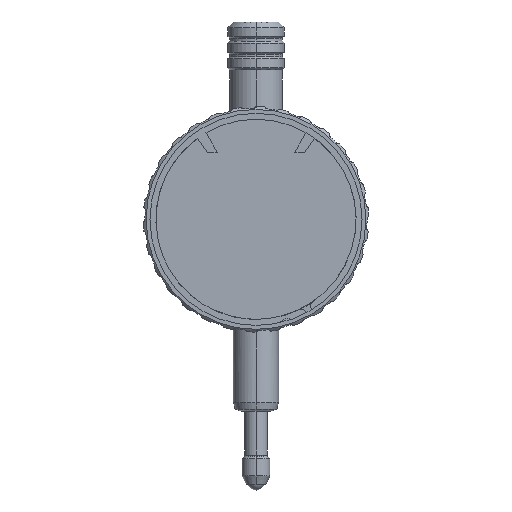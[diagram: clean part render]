
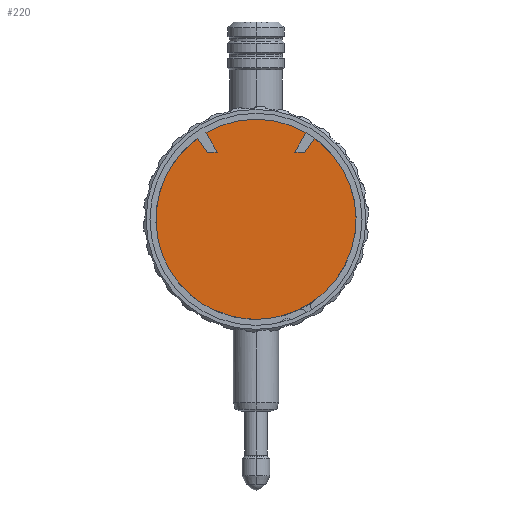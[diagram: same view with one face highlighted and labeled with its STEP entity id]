
A CAD part, front view. The second image highlights one B-rep face of the part: STEP entity #220.
In plain terms, the highlighted planar face has unit normal (0, -1, 0).
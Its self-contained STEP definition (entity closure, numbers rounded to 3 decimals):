
#220=ADVANCED_FACE('',(#678,#679),#680,.F.);
#678=FACE_BOUND('',#1257,.T.);
#679=FACE_OUTER_BOUND('',#1258,.T.);
#680=PLANE('',#1259);
#1257=EDGE_LOOP('',(#2946,#2947,#2948,#2949,#2950,#2951,#2952,#2953,#2954,#2955,#2956,#2957,#2958,#2959,#2960,#2961));
#1258=EDGE_LOOP('',(#2962,#2963));
#1259=AXIS2_PLACEMENT_3D('',#2964,#2965,#2966);
#2946=ORIENTED_EDGE('',*,*,#4417,.T.);
#2947=ORIENTED_EDGE('',*,*,#4418,.T.);
#2948=ORIENTED_EDGE('',*,*,#4419,.T.);
#2949=ORIENTED_EDGE('',*,*,#4420,.T.);
#2950=ORIENTED_EDGE('',*,*,#3872,.T.);
#2951=ORIENTED_EDGE('',*,*,#3854,.T.);
#2952=ORIENTED_EDGE('',*,*,#4421,.T.);
#2953=ORIENTED_EDGE('',*,*,#4422,.T.);
#2954=ORIENTED_EDGE('',*,*,#3862,.T.);
#2955=ORIENTED_EDGE('',*,*,#4423,.T.);
#2956=ORIENTED_EDGE('',*,*,#4424,.T.);
#2957=ORIENTED_EDGE('',*,*,#4425,.T.);
#2958=ORIENTED_EDGE('',*,*,#4426,.T.);
#2959=ORIENTED_EDGE('',*,*,#3860,.T.);
#2960=ORIENTED_EDGE('',*,*,#3870,.T.);
#2961=ORIENTED_EDGE('',*,*,#4427,.T.);
#2962=ORIENTED_EDGE('',*,*,#3987,.T.);
#2963=ORIENTED_EDGE('',*,*,#4416,.T.);
#2964=CARTESIAN_POINT('',(0.0,-12.0,-9.675));
#2965=DIRECTION('',(-0.0,1.0,0.));
#2966=DIRECTION('',(0.0,0.,1.0));
#3854=EDGE_CURVE('',#4738,#4735,#4739,.T.);
#3860=EDGE_CURVE('',#4744,#4748,#4750,.T.);
#3862=EDGE_CURVE('',#4754,#4751,#4755,.T.);
#3870=EDGE_CURVE('',#4748,#4767,#4770,.T.);
#3872=EDGE_CURVE('',#4772,#4738,#4773,.T.);
#3987=EDGE_CURVE('',#4984,#4988,#4990,.T.);
#4416=EDGE_CURVE('',#4988,#4984,#5693,.T.);
#4417=EDGE_CURVE('',#5694,#5695,#5696,.T.);
#4418=EDGE_CURVE('',#5695,#5697,#5698,.T.);
#4419=EDGE_CURVE('',#5697,#5699,#5700,.T.);
#4420=EDGE_CURVE('',#5699,#4772,#5701,.T.);
#4421=EDGE_CURVE('',#4735,#5702,#5703,.T.);
#4422=EDGE_CURVE('',#5702,#4754,#5704,.T.);
#4423=EDGE_CURVE('',#4751,#5705,#5706,.T.);
#4424=EDGE_CURVE('',#5705,#5707,#5708,.T.);
#4425=EDGE_CURVE('',#5707,#5709,#5710,.T.);
#4426=EDGE_CURVE('',#5709,#4744,#5711,.T.);
#4427=EDGE_CURVE('',#4767,#5694,#5712,.T.);
#4735=VERTEX_POINT('',#5983);
#4738=VERTEX_POINT('',#5987);
#4739=CIRCLE('',#5988,0.75);
#4744=VERTEX_POINT('',#5994);
#4748=VERTEX_POINT('',#5999);
#4750=CIRCLE('',#6002,0.75);
#4751=VERTEX_POINT('',#6003);
#4754=VERTEX_POINT('',#6007);
#4755=CIRCLE('',#6008,19.25);
#4767=VERTEX_POINT('',#6023);
#4770=CIRCLE('',#6027,17.75);
#4772=VERTEX_POINT('',#6029);
#4773=CIRCLE('',#6030,17.75);
#4984=VERTEX_POINT('',#7507);
#4988=VERTEX_POINT('',#7512);
#4990=CIRCLE('',#7515,19.35);
#5693=CIRCLE('',#11700,19.35);
#5694=VERTEX_POINT('',#11701);
#5695=VERTEX_POINT('',#11702);
#5696=LINE('',#11703,#11704);
#5697=VERTEX_POINT('',#11705);
#5698=LINE('',#11706,#11707);
#5699=VERTEX_POINT('',#11708);
#5700=LINE('',#11709,#11710);
#5701=CIRCLE('',#11711,17.75);
#5702=VERTEX_POINT('',#11712);
#5703=CIRCLE('',#11713,0.75);
#5704=CIRCLE('',#11714,19.25);
#5705=VERTEX_POINT('',#11715);
#5706=CIRCLE('',#11716,19.25);
#5707=VERTEX_POINT('',#11717);
#5708=CIRCLE('',#11718,2.0);
#5709=VERTEX_POINT('',#11719);
#5710=CIRCLE('',#11720,19.25);
#5711=CIRCLE('',#11721,0.75);
#5712=CIRCLE('',#11722,17.75);
#5983=CARTESIAN_POINT('',(-9.745,-12.0,-15.679));
#5987=CARTESIAN_POINT('',(-9.973,-12.0,-14.683));
#5988=AXIS2_PLACEMENT_3D('',#12256,#12257,#12258);
#5994=CARTESIAN_POINT('',(-8.706,-12.0,-16.279));
#5999=CARTESIAN_POINT('',(-7.73,-12.0,-15.979));
#6002=AXIS2_PLACEMENT_3D('',#12268,#12269,#12270);
#6003=CARTESIAN_POINT('',(16.671,-12.0,9.625));
#6007=CARTESIAN_POINT('',(-16.671,-12.0,-9.625));
#6008=AXIS2_PLACEMENT_3D('',#12272,#12273,#12274);
#6023=CARTESIAN_POINT('',(15.372,-12.0,8.875));
#6027=AXIS2_PLACEMENT_3D('',#12288,#12289,#12290);
#6029=CARTESIAN_POINT('',(-15.372,-12.0,-8.875));
#6030=AXIS2_PLACEMENT_3D('',#12294,#12295,#12296);
#7507=CARTESIAN_POINT('',(0.0,-12.0,-19.35));
#7512=CARTESIAN_POINT('',(0.,-12.0,19.35));
#7515=AXIS2_PLACEMENT_3D('',#12390,#12391,#12392);
#11700=AXIS2_PLACEMENT_3D('',#12926,#12927,#12928);
#11701=CARTESIAN_POINT('',(10.388,-12.0,14.393));
#11702=CARTESIAN_POINT('',(8.595,-12.0,11.908));
#11703=CARTESIAN_POINT('',(2.45,-12.0,3.395));
#11704=VECTOR('',#12929,1.0);
#11705=CARTESIAN_POINT('',(6.875,-12.0,11.908));
#11706=CARTESIAN_POINT('',(3.867,-12.0,11.908));
#11707=VECTOR('',#12930,1.0);
#11708=CARTESIAN_POINT('',(8.875,-12.0,15.372));
#11709=CARTESIAN_POINT('',(1.843,-12.0,3.192));
#11710=VECTOR('',#12931,1.0);
#11711=AXIS2_PLACEMENT_3D('',#12932,#12933,#12934);
#11712=CARTESIAN_POINT('',(-10.816,-12.0,-15.924));
#11713=AXIS2_PLACEMENT_3D('',#12935,#12936,#12937);
#11714=AXIS2_PLACEMENT_3D('',#12938,#12939,#12940);
#11715=CARTESIAN_POINT('',(-3.761,-12.0,-18.879));
#11716=AXIS2_PLACEMENT_3D('',#12941,#12942,#12943);
#11717=CARTESIAN_POINT('',(-6.815,-12.0,-18.003));
#11718=AXIS2_PLACEMENT_3D('',#12944,#12945,#12946);
#11719=CARTESIAN_POINT('',(-8.383,-12.0,-17.329));
#11720=AXIS2_PLACEMENT_3D('',#12947,#12948,#12949);
#11721=AXIS2_PLACEMENT_3D('',#12950,#12951,#12952);
#11722=AXIS2_PLACEMENT_3D('',#12953,#12954,#12955);
#12256=CARTESIAN_POINT('',(-10.394,-12.0,-15.304));
#12257=DIRECTION('',(0.,1.0,0.));
#12258=DIRECTION('',(0.866,0.,-0.5));
#12268=CARTESIAN_POINT('',(-8.056,-12.0,-16.654));
#12269=DIRECTION('',(0.,1.0,0.));
#12270=DIRECTION('',(0.866,0.,-0.5));
#12272=CARTESIAN_POINT('',(0.0,-12.0,0.));
#12273=DIRECTION('',(0.,1.0,0.));
#12274=DIRECTION('',(0.866,0.,0.5));
#12288=CARTESIAN_POINT('',(0.0,-12.0,0.));
#12289=DIRECTION('',(0.0,-1.0,0.));
#12290=DIRECTION('',(0.866,0.,0.5));
#12294=CARTESIAN_POINT('',(0.0,-12.0,0.));
#12295=DIRECTION('',(0.0,-1.0,0.));
#12296=DIRECTION('',(0.866,0.,0.5));
#12390=CARTESIAN_POINT('',(0.0,-12.0,0.));
#12391=DIRECTION('',(0.0,-1.0,0.0));
#12392=DIRECTION('',(0.0,0.0,-1.0));
#12926=CARTESIAN_POINT('',(0.0,-12.0,0.));
#12927=DIRECTION('',(0.0,-1.0,0.0));
#12928=DIRECTION('',(0.0,0.0,-1.0));
#12929=DIRECTION('',(-0.585,0.,-0.811));
#12930=DIRECTION('',(-1.0,0.,0.));
#12931=DIRECTION('',(0.5,0.,0.866));
#12932=CARTESIAN_POINT('',(0.0,-12.0,0.));
#12933=DIRECTION('',(0.0,-1.0,0.));
#12934=DIRECTION('',(0.866,0.,0.5));
#12935=CARTESIAN_POINT('',(-10.394,-12.0,-15.304));
#12936=DIRECTION('',(0.,1.0,0.));
#12937=DIRECTION('',(0.866,0.,-0.5));
#12938=CARTESIAN_POINT('',(0.0,-12.0,0.));
#12939=DIRECTION('',(0.,1.0,0.));
#12940=DIRECTION('',(0.866,0.,0.5));
#12941=CARTESIAN_POINT('',(0.0,-12.0,0.));
#12942=DIRECTION('',(0.,1.0,0.));
#12943=DIRECTION('',(0.866,0.,0.5));
#12944=CARTESIAN_POINT('',(-5.623,-12.0,-19.61));
#12945=DIRECTION('',(0.0,-1.0,0.));
#12946=DIRECTION('',(0.866,0.,-0.5));
#12947=CARTESIAN_POINT('',(0.0,-12.0,0.));
#12948=DIRECTION('',(0.,1.0,0.));
#12949=DIRECTION('',(0.866,0.,0.5));
#12950=CARTESIAN_POINT('',(-8.056,-12.0,-16.654));
#12951=DIRECTION('',(0.,1.0,0.));
#12952=DIRECTION('',(0.866,0.,-0.5));
#12953=CARTESIAN_POINT('',(0.0,-12.0,0.));
#12954=DIRECTION('',(0.0,-1.0,0.));
#12955=DIRECTION('',(0.866,0.,0.5));
